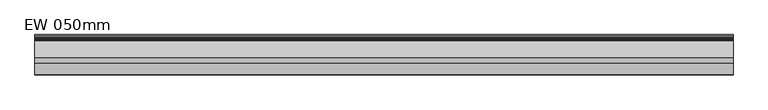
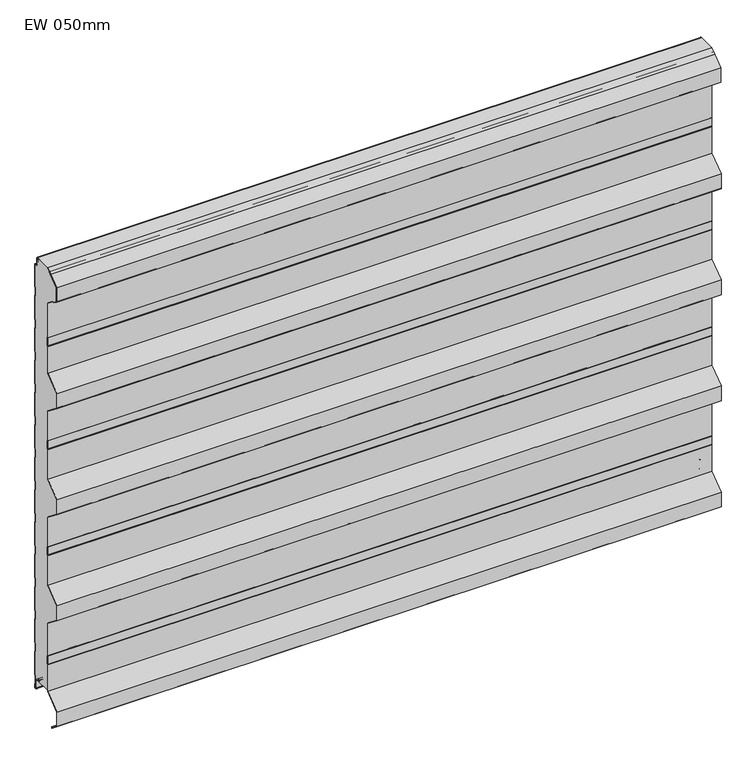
"""IFC4 building model written with IfcOpenShell, lengths in millimetres: plate geometry, KIP-MEX-KC-R19-CP-EW-SL : EW 050mm."""

from ifc_helpers import new_model, si_unit, point, frame, frame_2d, origin, place, context, project, spatial, polyline, circle_curve, trimmed, segment, composite_curve, outline, extrude, source, transform, mapped, element, save
from ifc_brep_helpers import plane_surface, cylinder_surface, revolved_surface, advanced_brep


def ew_050mm_1255d846(model_context):
    return source(origin(), model_context, "Body", "SolidModel", [
        advanced_brep(
        [(-740.0, -60.0327477, 989.051258), (-740.0, -55.6292245, 991.4166419), (-740.0, -56.1011177, 992.2982989), (-740.0, -60.5823669, 989.8911639), (-740.0, -49.7971296, 998.3652789), (-740.0, -11.2514375, 998.3666923), (-740.0, -13.6351997, 996.0840542), (-740.0, -14.1562355, 990.2938452), (-740.0, -13.178913, 990.2059002), (-740.0, -12.6629632, 995.9395891), (-740.0, -10.8760369, 997.3642752), (-740.0, -8.8936988, 995.9342793), (-740.0, -7.4885937, 979.8720443), (-740.0, -4.5000049, 977.1334803), (-740.0, -1.0, 977.1334803), (-740.0, -1.0, 924.1786391), (-740.0, -2.2002307, 922.7930062), (-740.0, -2.2002307, 903.4178399), (-740.0, -1.0, 902.0322069), (-740.0, -1.0, 847.9787915), (-740.0, -2.2002307, 846.5931586), (-740.0, -2.2002307, 827.2179923), (-740.0, -1.0, 825.8323593), (-740.0, -1.0, 771.7789439), (-740.0, -2.2002307, 770.393311), (-740.0, -2.2002307, 751.0181447), (-740.0, -1.0, 749.6325117), (-740.0, -1.0, 695.5790963), (-740.0, -2.2002307, 694.1934634), (-740.0, -2.2002307, 674.8182971), (-740.0, -1.0, 673.4326641), (-740.0, -1.0, 619.3792487), (-740.0, -2.2002307, 617.9936158), (-740.0, -2.2002307, 598.6184495), (-740.0, -1.0, 597.2328165), (-740.0, -1.0, 543.1794011), (-740.0, -2.2002307, 541.7937682), (-740.0, -2.2002307, 522.4186019), (-740.0, -1.0, 521.0329689), (-740.0, -1.0, 466.9795535), (-740.0, -2.2002307, 465.5939206), (-740.0, -2.2002307, 446.2187543), (-740.0, -1.0, 444.8331213), (-740.0, -1.0, 390.7797059), (-740.0, -2.2002307, 389.394073), (-740.0, -2.2002307, 370.0189067), (-740.0, -1.0, 368.6332737), (-740.0, -1.0, 314.5798583), (-740.0, -2.2002307, 313.1942254), (-740.0, -2.2002307, 293.8190591), (-740.0, -1.0, 292.4334261), (-740.0, -1.0, 238.3800107), (-740.0, -2.2002307, 236.9943778), (-740.0, -2.2002307, 217.6192115), (-740.0, -1.0, 216.2335785), (-740.0, -1.0, 162.1801631), (-740.0, -2.2002307, 160.7945302), (-740.0, -2.2002307, 141.4193639), (-740.0, -1.0, 140.0337309), (-740.0, -1.0, 85.9803155), (-740.0, -2.2002307, 84.5946826), (-740.0, -2.2002307, 65.2195163), (-740.0, -1.0, 63.8338833), (-740.0, -1.0, 9.7804679), (-740.0, -2.2002307, 8.394835), (-740.0, -2.2002307, -10.9803313), (-740.0, -0.9999916, -12.365974), (-740.0, -0.9999916, -20.8675386), (-740.0, -2.4999198, -20.8675386), (-740.0, -4.9998241, -18.3676343), (-740.0, -4.9998241, -0.3670493), (-740.0, -7.998082, 2.6333088), (-740.0, -11.5943952, 2.6333088), (-740.0, -13.0725686, 3.8746028), (-740.0, -13.6943971, 7.4169376), (-740.0, -14.6793372, 7.2440392), (-740.0, -14.0575086, 3.7017037), (-740.0, -11.5958694, 1.6333077), (-740.0, -49.0, 1.6333077), (-740.0, -49.0, 62.1559418), (-740.0, -47.9999989, 63.5702249), (-740.0, -47.9999989, 82.7777465), (-740.0, -49.0, 84.1920296), (-740.0, -49.0, 160.6910066), (-740.0, -84.000038, 188.1910365), (-740.0, -84.000038, 222.2190039), (-740.0, -49.0, 249.7190337), (-740.0, -49.0, 319.1871119), (-740.0, -47.9999989, 320.601395), (-740.0, -47.9999989, 339.8089167), (-740.0, -49.0, 341.2231997), (-740.0, -49.0, 410.6912779), (-740.0, -84.000038, 438.1913078), (-740.0, -84.000038, 472.2192752), (-740.0, -49.0, 499.719305), (-740.0, -49.0, 569.1090864), (-740.0, -47.9999989, 570.1732653), (-740.0, -47.9999989, 589.809188), (-740.0, -49.0, 591.2234711), (-740.0, -49.0, 660.6915492), (-740.0, -84.000038, 688.1915791), (-740.0, -84.000038, 722.2195465), (-740.0, -49.0, 749.7195763), (-740.0, -49.0, 812.1567557), (-740.0, -47.9999989, 813.5710388), (-740.0, -47.9999989, 832.7785605), (-740.0, -49.0, 834.1928435), (-740.0, -49.0, 914.6918249), (-740.0, -69.3814311, 930.7058064), (-740.0, -73.199617, 930.7058064), (-740.0, -83.0000369, 938.4061363), (-740.0, -83.0000369, 971.0055308), (740.0, -60.0327477, 989.051258), (740.0, -83.0000369, 971.0055308), (740.0, -83.0000369, 938.4061363), (740.0, -73.199617, 930.7058064), (740.0, -69.3814311, 930.7058064), (740.0, -49.0, 914.6918249), (740.0, -49.0, 834.1928435), (740.0, -47.9999989, 832.7785605), (740.0, -47.9999989, 813.5710388), (740.0, -49.0, 812.1567557), (740.0, -49.0, 749.7195763), (740.0, -84.000038, 722.2195465), (740.0, -84.000038, 688.1915791), (740.0, -49.0, 660.6915492), (740.0, -49.0, 591.2234711), (740.0, -47.9999989, 589.809188), (740.0, -47.9999989, 570.1732653), (740.0, -49.0, 569.1090864), (740.0, -49.0, 499.719305), (740.0, -84.000038, 472.2192752), (740.0, -84.000038, 438.1913078), (740.0, -49.0, 410.6912779), (740.0, -49.0, 341.2231997), (740.0, -47.9999989, 339.8089167), (740.0, -47.9999989, 320.601395), (740.0, -49.0, 319.1871119), (740.0, -49.0, 249.7190337), (740.0, -84.000038, 222.2190039), (740.0, -84.000038, 188.1910365), (740.0, -49.0, 160.6910066), (740.0, -49.0, 84.1920296), (740.0, -47.9999989, 82.7777465), (740.0, -47.9999989, 63.5702249), (740.0, -49.0, 62.1559418), (740.0, -49.0, 1.6333077), (740.0, -11.5958694, 1.6333077), (740.0, -14.0575086, 3.7017037), (740.0, -14.6793372, 7.2440392), (740.0, -13.6943971, 7.4169376), (740.0, -13.0725686, 3.8746028), (740.0, -11.5943952, 2.6333088), (740.0, -7.998082, 2.6333088), (740.0, -4.9998241, -0.3670493), (740.0, -4.9998241, -18.3676343), (740.0, -2.4999198, -20.8675386), (740.0, -0.9999916, -20.8675386), (740.0, -0.9999916, -12.365974), (740.0, -2.2002307, -10.9803313), (740.0, -2.2002307, 8.394835), (740.0, -1.0, 9.7804679), (740.0, -1.0, 63.8338833), (740.0, -2.2002307, 65.2195163), (740.0, -2.2002307, 84.5946826), (740.0, -1.0, 85.9803155), (740.0, -1.0, 140.0337309), (740.0, -2.2002307, 141.4193639), (740.0, -2.2002307, 160.7945302), (740.0, -1.0, 162.1801631), (740.0, -1.0, 216.2335785), (740.0, -2.2002307, 217.6192115), (740.0, -2.2002307, 236.9943778), (740.0, -1.0, 238.3800107), (740.0, -1.0, 292.4334261), (740.0, -2.2002307, 293.8190591), (740.0, -2.2002307, 313.1942254), (740.0, -1.0, 314.5798583), (740.0, -1.0, 368.6332737), (740.0, -2.2002307, 370.0189067), (740.0, -2.2002307, 389.394073), (740.0, -1.0, 390.7797059), (740.0, -1.0, 444.8331213), (740.0, -2.2002307, 446.2187543), (740.0, -2.2002307, 465.5939206), (740.0, -1.0, 466.9795535), (740.0, -1.0, 521.0329689), (740.0, -2.2002307, 522.4186019), (740.0, -2.2002307, 541.7937682), (740.0, -1.0, 543.1794011), (740.0, -1.0, 597.2328165), (740.0, -2.2002307, 598.6184495), (740.0, -2.2002307, 617.9936158), (740.0, -1.0, 619.3792487), (740.0, -1.0, 673.4326641), (740.0, -2.2002307, 674.8182971), (740.0, -2.2002307, 694.1934634), (740.0, -1.0, 695.5790963), (740.0, -1.0, 749.6325117), (740.0, -2.2002307, 751.0181447), (740.0, -2.2002307, 770.393311), (740.0, -1.0, 771.7789439), (740.0, -1.0, 825.8323593), (740.0, -2.2002307, 827.2179923), (740.0, -2.2002307, 846.5931586), (740.0, -1.0, 847.9787915), (740.0, -1.0, 902.0322069), (740.0, -2.2002307, 903.4178399), (740.0, -2.2002307, 922.7930062), (740.0, -1.0, 924.1786391), (740.0, -1.0, 977.1334803), (740.0, -4.5000049, 977.1334803), (740.0, -7.4885937, 979.8720443), (740.0, -8.8936988, 995.9342793), (740.0, -10.8760369, 997.3642752), (740.0, -12.6629632, 995.9395891), (740.0, -13.178913, 990.2059002), (740.0, -14.1562355, 990.2938452), (740.0, -13.6351997, 996.0840542), (740.0, -11.2514375, 998.3666923), (740.0, -49.7971296, 998.3652789), (740.0, -60.5823669, 989.8911639), (740.0, -56.1011177, 992.2982989), (740.0, -55.6292245, 991.4166419)],
        [
            (0, 1),
            (1, 2),
            (2, 3),
            (3, 4),
            (4, 5),
            (5, 6, circle_curve(frame((-740.0, -10.8441969, 995.5554081), z_axis=(1.0, 0.0, 0.0), x_axis=(0.0, -1.0, 0.0)), 2.8406273)),
            (6, 7),
            (7, 8),
            (8, 9),
            (9, 10, circle_curve(frame((-740.0, -10.8991179, 995.560247), z_axis=(-1.0, 0.0, 0.0), x_axis=(0.0, -1.0, 0.0)), 1.8041759)),
            (10, 11, circle_curve(frame((-740.0, -10.6928483, 995.5292107), z_axis=(-1.0, 0.0, 0.0), x_axis=(0.0, -1.0, 0.0)), 1.8441854)),
            (11, 12),
            (12, 13, circle_curve(frame((-740.0, -4.5000049, 980.1334825), z_axis=(1.0, 0.0, 0.0), x_axis=(0.0, -1.0, 0.0)), 3.0000022)),
            (13, 14),
            (14, 15),
            (15, 16),
            (16, 17),
            (17, 18),
            (18, 19),
            (19, 20),
            (20, 21),
            (21, 22),
            (22, 23),
            (23, 24),
            (24, 25),
            (25, 26),
            (26, 27),
            (27, 28),
            (28, 29),
            (29, 30),
            (30, 31),
            (31, 32),
            (32, 33),
            (33, 34),
            (34, 35),
            (35, 36),
            (36, 37),
            (37, 38),
            (38, 39),
            (39, 40),
            (40, 41),
            (41, 42),
            (42, 43),
            (43, 44),
            (44, 45),
            (45, 46),
            (46, 47),
            (47, 48),
            (48, 49),
            (49, 50),
            (50, 51),
            (51, 52),
            (52, 53),
            (53, 54),
            (54, 55),
            (55, 56),
            (56, 57),
            (57, 58),
            (58, 59),
            (59, 60),
            (60, 61),
            (61, 62),
            (62, 63),
            (63, 64),
            (64, 65),
            (65, 66),
            (66, 67),
            (67, 68),
            (68, 69, circle_curve(frame((-740.0, -2.4999198, -18.3676343), z_axis=(-1.0, 0.0, 0.0), x_axis=(0.0, -1.0, 0.0)), 2.4999043)),
            (69, 70),
            (70, 71, circle_curve(frame((-740.0, -8.0001829, -0.3670493), z_axis=(1.0, 0.0, 0.0), x_axis=(0.0, -1.0, 0.0)), 3.0003589)),
            (71, 72),
            (72, 73, circle_curve(frame((-740.0, -11.5943952, 4.1340843), z_axis=(-1.0, 0.0, 0.0), x_axis=(0.0, -1.0, 0.0)), 1.5007755)),
            (73, 74),
            (74, 75),
            (75, 76),
            (76, 77, circle_curve(frame((-740.0, -11.5943948, 4.1340836), z_axis=(1.0, 0.0, 0.0), x_axis=(0.0, -1.0, 0.0)), 2.5007762)),
            (77, 78),
            (78, 79),
            (79, 80),
            (80, 81),
            (81, 82),
            (82, 83),
            (83, 84),
            (84, 85),
            (85, 86),
            (86, 87),
            (87, 88),
            (88, 89),
            (89, 90),
            (90, 91),
            (91, 92),
            (92, 93),
            (93, 94),
            (94, 95),
            (95, 96),
            (96, 97),
            (97, 98),
            (98, 99),
            (99, 100),
            (100, 101),
            (101, 102),
            (102, 103),
            (103, 104),
            (104, 105),
            (105, 106),
            (106, 107),
            (107, 108),
            (108, 109),
            (109, 110),
            (110, 111),
            (111, 0),
            (112, 113),
            (113, 114),
            (114, 115),
            (115, 116),
            (116, 117),
            (117, 118),
            (118, 119),
            (119, 120),
            (120, 121),
            (121, 122),
            (122, 123),
            (123, 124),
            (124, 125),
            (125, 126),
            (126, 127),
            (127, 128),
            (128, 129),
            (129, 130),
            (130, 131),
            (131, 132),
            (132, 133),
            (133, 134),
            (134, 135),
            (135, 136),
            (136, 137),
            (137, 138),
            (138, 139),
            (139, 140),
            (140, 141),
            (141, 142),
            (142, 143),
            (143, 144),
            (144, 145),
            (145, 146),
            (146, 147),
            (147, 148, circle_curve(frame((740.0, -11.5943948, 4.1340836), z_axis=(-1.0, 0.0, 0.0), x_axis=(0.0, -1.0, 0.0)), 2.5007762)),
            (148, 149),
            (149, 150),
            (150, 151),
            (151, 152, circle_curve(frame((740.0, -11.5943952, 4.1340843), z_axis=(1.0, 0.0, 0.0), x_axis=(0.0, -1.0, 0.0)), 1.5007755)),
            (152, 153),
            (153, 154, circle_curve(frame((740.0, -8.0001829, -0.3670493), z_axis=(-1.0, 0.0, 0.0), x_axis=(0.0, -1.0, 0.0)), 3.0003589)),
            (154, 155),
            (155, 156, circle_curve(frame((740.0, -2.4999198, -18.3676343), z_axis=(1.0, 0.0, 0.0), x_axis=(0.0, -1.0, 0.0)), 2.4999043)),
            (156, 157),
            (157, 158),
            (158, 159),
            (159, 160),
            (160, 161),
            (161, 162),
            (162, 163),
            (163, 164),
            (164, 165),
            (165, 166),
            (166, 167),
            (167, 168),
            (168, 169),
            (169, 170),
            (170, 171),
            (171, 172),
            (172, 173),
            (173, 174),
            (174, 175),
            (175, 176),
            (176, 177),
            (177, 178),
            (178, 179),
            (179, 180),
            (180, 181),
            (181, 182),
            (182, 183),
            (183, 184),
            (184, 185),
            (185, 186),
            (186, 187),
            (187, 188),
            (188, 189),
            (189, 190),
            (190, 191),
            (191, 192),
            (192, 193),
            (193, 194),
            (194, 195),
            (195, 196),
            (196, 197),
            (197, 198),
            (198, 199),
            (199, 200),
            (200, 201),
            (201, 202),
            (202, 203),
            (203, 204),
            (204, 205),
            (205, 206),
            (206, 207),
            (207, 208),
            (208, 209),
            (209, 210),
            (210, 211),
            (211, 212, circle_curve(frame((740.0, -4.5000049, 980.1334825), z_axis=(-1.0, 0.0, 0.0), x_axis=(0.0, -1.0, 0.0)), 3.0000022)),
            (212, 213),
            (213, 214, circle_curve(frame((740.0, -10.6928483, 995.5292107), z_axis=(1.0, 0.0, 0.0), x_axis=(0.0, -1.0, 0.0)), 1.8441854)),
            (214, 215, circle_curve(frame((740.0, -10.8991179, 995.560247), z_axis=(1.0, 0.0, 0.0), x_axis=(0.0, -1.0, 0.0)), 1.8041759)),
            (215, 216),
            (216, 217),
            (217, 218),
            (218, 219, circle_curve(frame((740.0, -10.8441969, 995.5554081), z_axis=(-1.0, 0.0, 0.0), x_axis=(0.0, -1.0, 0.0)), 2.8406273)),
            (219, 220),
            (220, 221),
            (221, 222),
            (222, 223),
            (223, 112),
            (0, 112),
            (223, 1),
            (111, 113),
            (110, 114),
            (109, 115),
            (108, 116),
            (107, 117),
            (106, 118),
            (105, 119),
            (104, 120),
            (103, 121),
            (102, 122),
            (101, 123),
            (100, 124),
            (99, 125),
            (98, 126),
            (97, 127),
            (96, 128),
            (95, 129),
            (94, 130),
            (93, 131),
            (92, 132),
            (91, 133),
            (90, 134),
            (89, 135),
            (88, 136),
            (87, 137),
            (86, 138),
            (85, 139),
            (84, 140),
            (83, 141),
            (82, 142),
            (81, 143),
            (80, 144),
            (79, 145),
            (78, 146),
            (2, 222),
            (221, 3),
            (220, 4),
            (219, 5),
            (77, 147),
            (73, 151),
            (150, 74),
            (72, 152),
            (71, 153),
            (70, 154),
            (69, 155),
            (68, 156),
            (67, 157),
            (13, 211),
            (210, 14),
            (12, 212),
            (11, 213),
            (10, 214),
            (9, 215),
            (8, 216),
            (7, 217),
            (6, 218),
            (76, 148),
            (75, 149),
            (66, 158),
            (65, 159),
            (64, 160),
            (63, 161),
            (62, 162),
            (61, 163),
            (60, 164),
            (59, 165),
            (58, 166),
            (57, 167),
            (56, 168),
            (55, 169),
            (54, 170),
            (53, 171),
            (52, 172),
            (51, 173),
            (50, 174),
            (49, 175),
            (48, 176),
            (47, 177),
            (46, 178),
            (45, 179),
            (44, 180),
            (43, 181),
            (42, 182),
            (41, 183),
            (40, 184),
            (39, 185),
            (38, 186),
            (37, 187),
            (36, 188),
            (35, 189),
            (34, 190),
            (33, 191),
            (32, 192),
            (31, 193),
            (30, 194),
            (29, 195),
            (28, 196),
            (27, 197),
            (26, 198),
            (25, 199),
            (24, 200),
            (23, 201),
            (22, 202),
            (21, 203),
            (20, 204),
            (19, 205),
            (18, 206),
            (17, 207),
            (16, 208),
            (15, 209),
        ],
        [
            plane_surface(frame((-740.0, -49.0, 500.0), z_axis=(-1.0, 0.0, 0.0), x_axis=(0.0, -1.0, 0.0))),
            plane_surface(frame((740.0, -49.0, 500.0), z_axis=(1.0, 0.0, 0.0), x_axis=(0.0, -1.0, 0.0))),
            plane_surface(frame((-740.0, -55.6292245, 991.4166419), z_axis=(0.0, -0.4732087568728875, 0.8809503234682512), x_axis=(1.0, 0.0, 0.0))),
            plane_surface(frame((-740.0, -60.0327477, 989.051258), z_axis=(0.0, -0.6178215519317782, 0.7863183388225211), x_axis=(1.0, 0.0, 0.0))),
            plane_surface(frame((-740.0, -83.0000369, 971.0055308), z_axis=(0.0, -1.0, 0.0), x_axis=(1.0, 0.0, 0.0))),
            plane_surface(frame((-740.0, -83.0000369, 938.4061363), z_axis=(0.0, -0.6178215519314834, -0.7863183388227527), x_axis=(1.0, 0.0, 0.0))),
            plane_surface(frame((-740.0, -73.199617, 930.7058064), z_axis=(0.0, 0.0, -1.0), x_axis=(1.0, 0.0, 0.0))),
            plane_surface(frame((-740.0, -69.3814311, 930.7058064), z_axis=(0.0, -0.6178215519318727, -0.786318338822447), x_axis=(1.0, 0.0, 0.0))),
            plane_surface(frame((-740.0, -49.0, 914.6918249), z_axis=(0.0, -1.0, 0.0), x_axis=(1.0, 0.0, 0.0))),
            plane_surface(frame((-740.0, -49.0, 834.1928435), z_axis=(0.0, -0.8165096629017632, -0.577331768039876), x_axis=(1.0, 0.0, 0.0))),
            plane_surface(frame((-740.0, -47.9999989, 832.7785605), z_axis=(0.0, -1.0, 0.0), x_axis=(1.0, 0.0, 0.0))),
            plane_surface(frame((-740.0, -47.9999989, 813.5710388), z_axis=(0.0, -0.816509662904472, 0.5773317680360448), x_axis=(1.0, 0.0, 0.0))),
            plane_surface(frame((-740.0, -49.0, 812.1567557), z_axis=(0.0, -1.0, 0.0), x_axis=(1.0, 0.0, 0.0))),
            plane_surface(frame((-740.0, -49.0, 749.7195763), z_axis=(0.0, -0.6178215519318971, 0.7863183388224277), x_axis=(1.0, 0.0, 0.0))),
            plane_surface(frame((-740.0, -84.000038, 722.2195465), z_axis=(0.0, -1.0, 0.0), x_axis=(1.0, 0.0, 0.0))),
            plane_surface(frame((-740.0, -84.000038, 688.1915791), z_axis=(0.0, -0.6178215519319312, -0.7863183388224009), x_axis=(1.0, 0.0, 0.0))),
            plane_surface(frame((-740.0, -49.0, 660.6915492), z_axis=(0.0, -1.0, 0.0), x_axis=(1.0, 0.0, 0.0))),
            plane_surface(frame((-740.0, -49.0, 591.2234711), z_axis=(0.0, -0.8165096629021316, -0.577331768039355), x_axis=(1.0, 0.0, 0.0))),
            plane_surface(frame((-740.0, -47.9999989, 589.809188), z_axis=(0.0, -1.0, 0.0), x_axis=(1.0, 0.0, 0.0))),
            plane_surface(frame((-740.0, -47.9999989, 570.1732653), z_axis=(0.0, -0.7287394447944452, 0.6847910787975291), x_axis=(1.0, 0.0, 0.0))),
            plane_surface(frame((-740.0, -49.0, 569.1090864), z_axis=(0.0, -1.0, 0.0), x_axis=(1.0, 0.0, 0.0))),
            plane_surface(frame((-740.0, -49.0, 499.719305), z_axis=(0.0, -0.6178215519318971, 0.7863183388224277), x_axis=(1.0, 0.0, 0.0))),
            plane_surface(frame((-740.0, -84.000038, 472.2192752), z_axis=(0.0, -1.0, 0.0), x_axis=(1.0, 0.0, 0.0))),
            plane_surface(frame((-740.0, -84.000038, 438.1913078), z_axis=(0.0, -0.6178215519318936, -0.7863183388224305), x_axis=(1.0, 0.0, 0.0))),
            plane_surface(frame((-740.0, -49.0, 410.6912779), z_axis=(0.0, -1.0, 0.0), x_axis=(1.0, 0.0, 0.0))),
            plane_surface(frame((-740.0, -49.0, 341.2231997), z_axis=(0.0, -0.8165096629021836, -0.5773317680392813), x_axis=(1.0, 0.0, 0.0))),
            plane_surface(frame((-740.0, -47.9999989, 339.8089167), z_axis=(0.0, -1.0, 0.0), x_axis=(1.0, 0.0, 0.0))),
            plane_surface(frame((-740.0, -47.9999989, 320.601395), z_axis=(0.0, -0.8165096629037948, 0.5773317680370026), x_axis=(1.0, 0.0, 0.0))),
            plane_surface(frame((-740.0, -49.0, 319.1871119), z_axis=(0.0, -1.0, 0.0), x_axis=(1.0, 0.0, 0.0))),
            plane_surface(frame((-740.0, -49.0, 249.7190337), z_axis=(0.0, -0.6178215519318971, 0.7863183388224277), x_axis=(1.0, 0.0, 0.0))),
            plane_surface(frame((-740.0, -84.000038, 222.2190039), z_axis=(0.0, -1.0, 0.0), x_axis=(1.0, 0.0, 0.0))),
            plane_surface(frame((-740.0, -84.000038, 188.1910365), z_axis=(0.0, -0.6178215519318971, -0.7863183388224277), x_axis=(1.0, 0.0, 0.0))),
            plane_surface(frame((-740.0, -49.0, 160.6910066), z_axis=(0.0, -1.0, 0.0), x_axis=(1.0, 0.0, 0.0))),
            plane_surface(frame((-740.0, -49.0, 84.1920296), z_axis=(0.0, -0.8165096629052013, -0.5773317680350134), x_axis=(1.0, 0.0, 0.0))),
            plane_surface(frame((-740.0, -47.9999989, 82.7777465), z_axis=(0.0, -1.0, 0.0), x_axis=(1.0, 0.0, 0.0))),
            plane_surface(frame((-740.0, -47.9999989, 63.5702249), z_axis=(0.0, -0.8165096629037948, 0.5773317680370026), x_axis=(1.0, 0.0, 0.0))),
            plane_surface(frame((-740.0, -49.0, 62.1559418), z_axis=(0.0, -1.0, 0.0), x_axis=(1.0, 0.0, 0.0))),
            plane_surface(frame((-740.0, -60.5823669, 989.8911639), z_axis=(0.0, 0.47320875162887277, -0.8809503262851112), x_axis=(1.0, 0.0, 0.0))),
            plane_surface(frame((-740.0, -56.1011177, 992.2982989), z_axis=(0.0, -0.8816559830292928, -0.47189270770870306), x_axis=(1.0, 0.0, 0.0))),
            plane_surface(frame((-740.0, -49.7971296, 998.3652789), z_axis=(0.0, -0.617821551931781, 0.786318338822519), x_axis=(1.0, 0.0, 0.0))),
            plane_surface(frame((-740.0, -44.8065083, 998.3652789), z_axis=(0.0, 0.0, 1.0), x_axis=(1.0, 0.0, 0.0))),
            plane_surface(frame((-740.0, -49.0, 1.6333077), z_axis=(0.0, 0.0, -1.0), x_axis=(1.0, 0.0, 0.0))),
            plane_surface(frame((-740.0, -13.6943971, 7.4169376), z_axis=(0.0, -0.9849396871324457, -0.17289827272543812), x_axis=(1.0, 0.0, 0.0))),
            cylinder_surface(frame((-740.0, -11.5943952, 4.1340843), z_axis=(-1.0, 0.0, 0.0), x_axis=(0.0, -1.0, 0.0)), 1.5007755),
            plane_surface(frame((-740.0, -11.5943952, 2.6333088), z_axis=(0.0, 0.0, -1.0), x_axis=(1.0, 0.0, 0.0))),
            revolved_surface(polyline([(740.0, -11.0005418, -0.3670493), (-740.0, -11.0005418, -0.3670493)]), (-740.0, -8.0001829, -0.3670493), (1.0, 0.0, 0.0)),
            plane_surface(frame((-740.0, -4.9998241, -0.3670493), z_axis=(0.0, -1.0, 0.0), x_axis=(1.0, 0.0, 0.0))),
            cylinder_surface(frame((-740.0, -2.4999198, -18.3676343), z_axis=(-1.0, 0.0, 0.0), x_axis=(0.0, -1.0, 0.0)), 2.4999043),
            plane_surface(frame((-740.0, -2.4999198, -20.8675386), z_axis=(0.0, 0.0, -1.0), x_axis=(1.0, 0.0, 0.0))),
            plane_surface(frame((-740.0, -1.0, 977.1334803), z_axis=(0.0, 0.0, 1.0), x_axis=(1.0, 0.0, 0.0))),
            revolved_surface(polyline([(740.0, -7.5000071, 980.1334825), (-740.0, -7.5000071, 980.1334825)]), (-740.0, -4.5000049, 980.1334825), (1.0, 0.0, 0.0)),
            plane_surface(frame((-740.0, -7.4885937, 979.8720443), z_axis=(0.0, 0.9961955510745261, 0.08714599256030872), x_axis=(1.0, 0.0, 0.0))),
            cylinder_surface(frame((-740.0, -10.6928483, 995.5292107), z_axis=(-1.0, 0.0, 0.0), x_axis=(0.0, -1.0, 0.0)), 1.8441854),
            cylinder_surface(frame((-740.0, -10.8991179, 995.560247), z_axis=(-1.0, 0.0, 0.0), x_axis=(0.0, -1.0, 0.0)), 1.8041759),
            plane_surface(frame((-740.0, -12.6629632, 995.9395891), z_axis=(0.0, -0.9959757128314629, 0.08962354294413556), x_axis=(1.0, 0.0, 0.0))),
            plane_surface(frame((-740.0, -13.178913, 990.2059002), z_axis=(0.0, 0.0896235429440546, 0.9959757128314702), x_axis=(1.0, 0.0, 0.0))),
            plane_surface(frame((-740.0, -14.1562355, 990.2938452), z_axis=(0.0, 0.9959757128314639, -0.08962354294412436), x_axis=(1.0, 0.0, 0.0))),
            revolved_surface(polyline([(740.0, -13.6848242, 995.5554081), (-740.0, -13.6848242, 995.5554081)]), (-740.0, -10.8441969, 995.5554081), (1.0, 0.0, 0.0)),
            revolved_surface(polyline([(740.0, -14.095171, 4.1340836), (-740.0, -14.095171, 4.1340836)]), (-740.0, -11.5943948, 4.1340836), (1.0, 0.0, 0.0)),
            plane_surface(frame((-740.0, -14.0575086, 3.7017037), z_axis=(0.0, 0.9849396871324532, 0.17289827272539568), x_axis=(1.0, 0.0, 0.0))),
            plane_surface(frame((-740.0, -14.6793372, 7.2440392), z_axis=(0.0, 0.17289827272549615, -0.9849396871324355), x_axis=(1.0, 0.0, 0.0))),
            plane_surface(frame((-740.0, -0.9999916, -20.8675386), z_axis=(0.0, 1.0, 0.0), x_axis=(1.0, 0.0, 0.0))),
            plane_surface(frame((-740.0, -0.9999916, -12.365974), z_axis=(0.0, 0.7558648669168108, 0.6547276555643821), x_axis=(1.0, 0.0, 0.0))),
            plane_surface(frame((-740.0, -2.2002307, -10.9803313), z_axis=(0.0, 1.0, 0.0), x_axis=(1.0, 0.0, 0.0))),
            plane_surface(frame((-740.0, -2.2002307, 8.394835), z_axis=(0.0, 0.7558648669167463, -0.6547276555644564), x_axis=(1.0, 0.0, 0.0))),
            plane_surface(frame((-740.0, -1.0, 9.7804679), z_axis=(0.0, 1.0, 0.0), x_axis=(1.0, 0.0, 0.0))),
            plane_surface(frame((-740.0, -1.0, 63.8338833), z_axis=(0.0, 0.7558648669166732, 0.6547276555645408), x_axis=(1.0, 0.0, 0.0))),
            plane_surface(frame((-740.0, -2.2002307, 65.2195163), z_axis=(0.0, 1.0, 0.0), x_axis=(1.0, 0.0, 0.0))),
            plane_surface(frame((-740.0, -2.2002307, 84.5946826), z_axis=(0.0, 0.7558648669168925, -0.6547276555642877), x_axis=(1.0, 0.0, 0.0))),
            plane_surface(frame((-740.0, -1.0, 85.9803155), z_axis=(0.0, 1.0, 0.0), x_axis=(1.0, 0.0, 0.0))),
            plane_surface(frame((-740.0, -1.0, 140.0337309), z_axis=(0.0, 0.7558648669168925, 0.6547276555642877), x_axis=(1.0, 0.0, 0.0))),
            plane_surface(frame((-740.0, -2.2002307, 141.4193639), z_axis=(0.0, 1.0, 0.0), x_axis=(1.0, 0.0, 0.0))),
            plane_surface(frame((-740.0, -2.2002307, 160.7945302), z_axis=(0.0, 0.7558648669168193, -0.6547276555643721), x_axis=(1.0, 0.0, 0.0))),
            plane_surface(frame((-740.0, -1.0, 162.1801631), z_axis=(0.0, 1.0, 0.0), x_axis=(1.0, 0.0, 0.0))),
            plane_surface(frame((-740.0, -1.0, 216.2335785), z_axis=(0.0, 0.7558648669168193, 0.6547276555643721), x_axis=(1.0, 0.0, 0.0))),
            plane_surface(frame((-740.0, -2.2002307, 217.6192115), z_axis=(0.0, 1.0, 0.0), x_axis=(1.0, 0.0, 0.0))),
            plane_surface(frame((-740.0, -2.2002307, 236.9943778), z_axis=(0.0, 0.7558648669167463, -0.6547276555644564), x_axis=(1.0, 0.0, 0.0))),
            plane_surface(frame((-740.0, -1.0, 238.3800107), z_axis=(0.0, 1.0, 0.0), x_axis=(1.0, 0.0, 0.0))),
            plane_surface(frame((-740.0, -1.0, 292.4334261), z_axis=(0.0, 0.7558648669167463, 0.6547276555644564), x_axis=(1.0, 0.0, 0.0))),
            plane_surface(frame((-740.0, -2.2002307, 293.8190591), z_axis=(0.0, 1.0, 0.0), x_axis=(1.0, 0.0, 0.0))),
            plane_surface(frame((-740.0, -2.2002307, 313.1942254), z_axis=(0.0, 0.7558648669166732, -0.6547276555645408), x_axis=(1.0, 0.0, 0.0))),
            plane_surface(frame((-740.0, -1.0, 314.5798583), z_axis=(0.0, 1.0, 0.0), x_axis=(1.0, 0.0, 0.0))),
            plane_surface(frame((-740.0, -1.0, 368.6332737), z_axis=(0.0, 0.7558648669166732, 0.6547276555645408), x_axis=(1.0, 0.0, 0.0))),
            plane_surface(frame((-740.0, -2.2002307, 370.0189067), z_axis=(0.0, 1.0, 0.0), x_axis=(1.0, 0.0, 0.0))),
            plane_surface(frame((-740.0, -2.2002307, 389.394073), z_axis=(0.0, 0.755864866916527, -0.6547276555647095), x_axis=(1.0, 0.0, 0.0))),
            plane_surface(frame((-740.0, -1.0, 390.7797059), z_axis=(0.0, 1.0, 0.0), x_axis=(1.0, 0.0, 0.0))),
            plane_surface(frame((-740.0, -1.0, 444.8331213), z_axis=(0.0, 0.755864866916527, 0.6547276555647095), x_axis=(1.0, 0.0, 0.0))),
            plane_surface(frame((-740.0, -2.2002307, 446.2187543), z_axis=(0.0, 1.0, 0.0), x_axis=(1.0, 0.0, 0.0))),
            plane_surface(frame((-740.0, -2.2002307, 465.5939206), z_axis=(0.0, 0.755864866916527, -0.6547276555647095), x_axis=(1.0, 0.0, 0.0))),
            plane_surface(frame((-740.0, -1.0, 466.9795535), z_axis=(0.0, 1.0, 0.0), x_axis=(1.0, 0.0, 0.0))),
            plane_surface(frame((-740.0, -1.0, 521.0329689), z_axis=(0.0, 0.755864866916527, 0.6547276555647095), x_axis=(1.0, 0.0, 0.0))),
            plane_surface(frame((-740.0, -2.2002307, 522.4186019), z_axis=(0.0, 1.0, 0.0), x_axis=(1.0, 0.0, 0.0))),
            plane_surface(frame((-740.0, -2.2002307, 541.7937682), z_axis=(0.0, 0.7558648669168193, -0.6547276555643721), x_axis=(1.0, 0.0, 0.0))),
            plane_surface(frame((-740.0, -1.0, 543.1794011), z_axis=(0.0, 1.0, 0.0), x_axis=(1.0, 0.0, 0.0))),
            plane_surface(frame((-740.0, -1.0, 597.2328165), z_axis=(0.0, 0.7558648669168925, 0.6547276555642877), x_axis=(1.0, 0.0, 0.0))),
            plane_surface(frame((-740.0, -2.2002307, 598.6184495), z_axis=(0.0, 1.0, 0.0), x_axis=(1.0, 0.0, 0.0))),
            plane_surface(frame((-740.0, -2.2002307, 617.9936158), z_axis=(0.0, 0.7558648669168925, -0.6547276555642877), x_axis=(1.0, 0.0, 0.0))),
            plane_surface(frame((-740.0, -1.0, 619.3792487), z_axis=(0.0, 1.0, 0.0), x_axis=(1.0, 0.0, 0.0))),
            plane_surface(frame((-740.0, -1.0, 673.4326641), z_axis=(0.0, 0.7558648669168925, 0.6547276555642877), x_axis=(1.0, 0.0, 0.0))),
            plane_surface(frame((-740.0, -2.2002307, 674.8182971), z_axis=(0.0, 1.0, 0.0), x_axis=(1.0, 0.0, 0.0))),
            plane_surface(frame((-740.0, -2.2002307, 694.1934634), z_axis=(0.0, 0.7558648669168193, -0.6547276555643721), x_axis=(1.0, 0.0, 0.0))),
            plane_surface(frame((-740.0, -1.0, 695.5790963), z_axis=(0.0, 1.0, 0.0), x_axis=(1.0, 0.0, 0.0))),
            plane_surface(frame((-740.0, -1.0, 749.6325117), z_axis=(0.0, 0.7558648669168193, 0.6547276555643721), x_axis=(1.0, 0.0, 0.0))),
            plane_surface(frame((-740.0, -2.2002307, 751.0181447), z_axis=(0.0, 1.0, 0.0), x_axis=(1.0, 0.0, 0.0))),
            plane_surface(frame((-740.0, -2.2002307, 770.393311), z_axis=(0.0, 0.7558648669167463, -0.6547276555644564), x_axis=(1.0, 0.0, 0.0))),
            plane_surface(frame((-740.0, -1.0, 771.7789439), z_axis=(0.0, 1.0, 0.0), x_axis=(1.0, 0.0, 0.0))),
            plane_surface(frame((-740.0, -1.0, 825.8323593), z_axis=(0.0, 0.7558648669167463, 0.6547276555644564), x_axis=(1.0, 0.0, 0.0))),
            plane_surface(frame((-740.0, -2.2002307, 827.2179923), z_axis=(0.0, 1.0, 0.0), x_axis=(1.0, 0.0, 0.0))),
            plane_surface(frame((-740.0, -2.2002307, 846.5931586), z_axis=(0.0, 0.7558648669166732, -0.6547276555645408), x_axis=(1.0, 0.0, 0.0))),
            plane_surface(frame((-740.0, -1.0, 847.9787915), z_axis=(0.0, 1.0, 0.0), x_axis=(1.0, 0.0, 0.0))),
            plane_surface(frame((-740.0, -1.0, 902.0322069), z_axis=(0.0, 0.7558648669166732, 0.6547276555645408), x_axis=(1.0, 0.0, 0.0))),
            plane_surface(frame((-740.0, -2.2002307, 903.4178399), z_axis=(0.0, 1.0, 0.0), x_axis=(1.0, 0.0, 0.0))),
            plane_surface(frame((-740.0, -2.2002307, 922.7930062), z_axis=(0.0, 0.7558648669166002, -0.6547276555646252), x_axis=(1.0, 0.0, 0.0))),
            plane_surface(frame((-740.0, -1.0, 924.1786391), z_axis=(0.0, 1.0, 0.0), x_axis=(1.0, 0.0, 0.0))),
        ],
        [
            (0, [[1, 2, 3, 4, 5, 6, 7, 8, 9, 10, 11, 12, 13, 14, 15, 16, 17, 18, 19, 20, 21, 22, 23, 24, 25, 26, 27, 28, 29, 30, 31, 32, 33, 34, 35, 36, 37, 38, 39, 40, 41, 42, 43, 44, 45, 46, 47, 48, 49, 50, 51, 52, 53, 54, 55, 56, 57, 58, 59, 60, 61, 62, 63, 64, 65, 66, 67, 68, 69, 70, 71, 72, 73, 74, 75, 76, 77, 78, 79, 80, 81, 82, 83, 84, 85, 86, 87, 88, 89, 90, 91, 92, 93, 94, 95, 96, 97, 98, 99, 100, 101, 102, 103, 104, 105, 106, 107, 108, 109, 110, 111, 112]]),
            (1, [[113, 114, 115, 116, 117, 118, 119, 120, 121, 122, 123, 124, 125, 126, 127, 128, 129, 130, 131, 132, 133, 134, 135, 136, 137, 138, 139, 140, 141, 142, 143, 144, 145, 146, 147, 148, 149, 150, 151, 152, 153, 154, 155, 156, 157, 158, 159, 160, 161, 162, 163, 164, 165, 166, 167, 168, 169, 170, 171, 172, 173, 174, 175, 176, 177, 178, 179, 180, 181, 182, 183, 184, 185, 186, 187, 188, 189, 190, 191, 192, 193, 194, 195, 196, 197, 198, 199, 200, 201, 202, 203, 204, 205, 206, 207, 208, 209, 210, 211, 212, 213, 214, 215, 216, 217, 218, 219, 220, 221, 222, 223, 224]]),
            (2, [[225, -224, 226, -1]]),
            (3, [[227, -113, -225, -112]]),
            (4, [[228, -114, -227, -111]]),
            (5, [[229, -115, -228, -110]]),
            (6, [[230, -116, -229, -109]]),
            (7, [[231, -117, -230, -108]]),
            (8, [[232, -118, -231, -107]]),
            (9, [[233, -119, -232, -106]]),
            (10, [[234, -120, -233, -105]]),
            (11, [[235, -121, -234, -104]]),
            (12, [[236, -122, -235, -103]]),
            (13, [[237, -123, -236, -102]]),
            (14, [[238, -124, -237, -101]]),
            (15, [[239, -125, -238, -100]]),
            (16, [[240, -126, -239, -99]]),
            (17, [[241, -127, -240, -98]]),
            (18, [[242, -128, -241, -97]]),
            (19, [[243, -129, -242, -96]]),
            (20, [[244, -130, -243, -95]]),
            (21, [[245, -131, -244, -94]]),
            (22, [[246, -132, -245, -93]]),
            (23, [[247, -133, -246, -92]]),
            (24, [[248, -134, -247, -91]]),
            (25, [[249, -135, -248, -90]]),
            (26, [[250, -136, -249, -89]]),
            (27, [[251, -137, -250, -88]]),
            (28, [[252, -138, -251, -87]]),
            (29, [[253, -139, -252, -86]]),
            (30, [[254, -140, -253, -85]]),
            (31, [[255, -141, -254, -84]]),
            (32, [[256, -142, -255, -83]]),
            (33, [[257, -143, -256, -82]]),
            (34, [[258, -144, -257, -81]]),
            (35, [[259, -145, -258, -80]]),
            (36, [[260, -146, -259, -79]]),
            (37, [[261, -222, 262, -3]]),
            (38, [[-226, -223, -261, -2]]),
            (39, [[-262, -221, 263, -4]]),
            (40, [[-263, -220, 264, -5]]),
            (41, [[265, -147, -260, -78]]),
            (42, [[266, -151, 267, -74]]),
            (43, [[268, -152, -266, -73]]),
            (44, [[269, -153, -268, -72]]),
            (45, [[270, -154, -269, -71]]),
            (46, [[271, -155, -270, -70]]),
            (47, [[272, -156, -271, -69]]),
            (48, [[273, -157, -272, -68]]),
            (49, [[274, -211, 275, -14]]),
            (50, [[276, -212, -274, -13]]),
            (51, [[277, -213, -276, -12]]),
            (52, [[278, -214, -277, -11]]),
            (53, [[279, -215, -278, -10]]),
            (54, [[280, -216, -279, -9]]),
            (55, [[281, -217, -280, -8]]),
            (56, [[282, -218, -281, -7]]),
            (57, [[-264, -219, -282, -6]]),
            (58, [[283, -148, -265, -77]]),
            (59, [[284, -149, -283, -76]]),
            (60, [[-267, -150, -284, -75]]),
            (61, [[285, -158, -273, -67]]),
            (62, [[286, -159, -285, -66]]),
            (63, [[287, -160, -286, -65]]),
            (64, [[288, -161, -287, -64]]),
            (65, [[289, -162, -288, -63]]),
            (66, [[290, -163, -289, -62]]),
            (67, [[291, -164, -290, -61]]),
            (68, [[292, -165, -291, -60]]),
            (69, [[293, -166, -292, -59]]),
            (70, [[294, -167, -293, -58]]),
            (71, [[295, -168, -294, -57]]),
            (72, [[296, -169, -295, -56]]),
            (73, [[297, -170, -296, -55]]),
            (74, [[298, -171, -297, -54]]),
            (75, [[299, -172, -298, -53]]),
            (76, [[300, -173, -299, -52]]),
            (77, [[301, -174, -300, -51]]),
            (78, [[302, -175, -301, -50]]),
            (79, [[303, -176, -302, -49]]),
            (80, [[304, -177, -303, -48]]),
            (81, [[305, -178, -304, -47]]),
            (82, [[306, -179, -305, -46]]),
            (83, [[307, -180, -306, -45]]),
            (84, [[308, -181, -307, -44]]),
            (85, [[309, -182, -308, -43]]),
            (86, [[310, -183, -309, -42]]),
            (87, [[311, -184, -310, -41]]),
            (88, [[312, -185, -311, -40]]),
            (89, [[313, -186, -312, -39]]),
            (90, [[314, -187, -313, -38]]),
            (91, [[315, -188, -314, -37]]),
            (92, [[316, -189, -315, -36]]),
            (93, [[317, -190, -316, -35]]),
            (94, [[318, -191, -317, -34]]),
            (95, [[319, -192, -318, -33]]),
            (96, [[320, -193, -319, -32]]),
            (97, [[321, -194, -320, -31]]),
            (98, [[322, -195, -321, -30]]),
            (99, [[323, -196, -322, -29]]),
            (100, [[324, -197, -323, -28]]),
            (101, [[325, -198, -324, -27]]),
            (102, [[326, -199, -325, -26]]),
            (103, [[327, -200, -326, -25]]),
            (104, [[328, -201, -327, -24]]),
            (105, [[329, -202, -328, -23]]),
            (106, [[330, -203, -329, -22]]),
            (107, [[331, -204, -330, -21]]),
            (108, [[332, -205, -331, -20]]),
            (109, [[333, -206, -332, -19]]),
            (110, [[334, -207, -333, -18]]),
            (111, [[335, -208, -334, -17]]),
            (112, [[336, -209, -335, -16]]),
            (113, [[-275, -210, -336, -15]]),
        ],
    ),
        extrude(outline(composite_curve([segment(trimmed(circle_curve(frame_2d((-1.4999961, 976.6334814)), 1.4999961), [point((-1.4999961, 978.1334775))], [point((0.0, 976.6334814))], False, "CARTESIAN"), True, "CONTINUOUS"), segment(polyline([(0.0, 976.6334814), (0.0, 924.3277902)]), True, "CONTINUOUS"), segment(trimmed(circle_curve(frame_2d((-1.3999972, 924.3277902)), 1.3999972), [point((0.0, 924.3277902))], [point((-0.3417885, 923.4111733))], False, "CARTESIAN"), True, "CONTINUOUS"), segment(polyline([(-0.3417885, 923.4111733), (-1.2002307, 922.4201257), (-1.2002307, 903.7907203), (-0.3417885, 902.7996726)]), True, "CONTINUOUS"), segment(trimmed(circle_curve(frame_2d((-1.3999972, 901.8830557)), 1.3999972), [point((-0.3417885, 902.7996726))], [point((0.0, 901.8830557))], False, "CARTESIAN"), True, "CONTINUOUS"), segment(polyline([(0.0, 901.8830557), (0.0, 848.1279426)]), True, "CONTINUOUS"), segment(trimmed(circle_curve(frame_2d((-1.3999972, 848.1279426)), 1.3999972), [point((0.0, 848.1279426))], [point((-0.3417885, 847.2113257))], False, "CARTESIAN"), True, "CONTINUOUS"), segment(polyline([(-0.3417885, 847.2113257), (-1.2002307, 846.2202781), (-1.2002307, 827.5908727), (-0.3417885, 826.599825)]), True, "CONTINUOUS"), segment(trimmed(circle_curve(frame_2d((-1.3999972, 825.6832081)), 1.3999972), [point((-0.3417885, 826.599825))], [point((0.0, 825.6832081))], False, "CARTESIAN"), True, "CONTINUOUS"), segment(polyline([(0.0, 825.6832081), (0.0, 771.928095)]), True, "CONTINUOUS"), segment(trimmed(circle_curve(frame_2d((-1.3999972, 771.928095)), 1.3999972), [point((0.0, 771.928095))], [point((-0.3417885, 771.0114781))], False, "CARTESIAN"), True, "CONTINUOUS"), segment(polyline([(-0.3417885, 771.0114781), (-1.2002307, 770.0204305), (-1.2002307, 751.3910251), (-0.3417885, 750.3999774)]), True, "CONTINUOUS"), segment(trimmed(circle_curve(frame_2d((-1.3999972, 749.4833605)), 1.3999972), [point((-0.3417885, 750.3999774))], [point((0.0, 749.4833605))], False, "CARTESIAN"), True, "CONTINUOUS"), segment(polyline([(0.0, 749.4833605), (0.0, 695.7282474)]), True, "CONTINUOUS"), segment(trimmed(circle_curve(frame_2d((-1.3999972, 695.7282474)), 1.3999972), [point((0.0, 695.7282474))], [point((-0.3417885, 694.8116305))], False, "CARTESIAN"), True, "CONTINUOUS"), segment(polyline([(-0.3417885, 694.8116305), (-1.2002307, 693.8205829), (-1.2002307, 675.1911775), (-0.3417885, 674.2001298)]), True, "CONTINUOUS"), segment(trimmed(circle_curve(frame_2d((-1.3999972, 673.2835129)), 1.3999972), [point((-0.3417885, 674.2001298))], [point((0.0, 673.2835129))], False, "CARTESIAN"), True, "CONTINUOUS"), segment(polyline([(0.0, 673.2835129), (0.0, 619.5283998)]), True, "CONTINUOUS"), segment(trimmed(circle_curve(frame_2d((-1.3999972, 619.5283998)), 1.3999972), [point((0.0, 619.5283998))], [point((-0.3417885, 618.6117829))], False, "CARTESIAN"), True, "CONTINUOUS"), segment(polyline([(-0.3417885, 618.6117829), (-1.2002307, 617.6207353), (-1.2002307, 598.9913299), (-0.3417885, 598.0002822)]), True, "CONTINUOUS"), segment(trimmed(circle_curve(frame_2d((-1.3999972, 597.0836653)), 1.3999972), [point((-0.3417885, 598.0002822))], [point((0.0, 597.0836653))], False, "CARTESIAN"), True, "CONTINUOUS"), segment(polyline([(0.0, 597.0836653), (0.0, 543.3285522)]), True, "CONTINUOUS"), segment(trimmed(circle_curve(frame_2d((-1.3999972, 543.3285522)), 1.3999972), [point((0.0, 543.3285522))], [point((-0.3417885, 542.4119353))], False, "CARTESIAN"), True, "CONTINUOUS"), segment(polyline([(-0.3417885, 542.4119353), (-1.2002307, 541.4208877), (-1.2002307, 522.7914823), (-0.3417885, 521.8004346)]), True, "CONTINUOUS"), segment(trimmed(circle_curve(frame_2d((-1.3999972, 520.8838177)), 1.3999972), [point((-0.3417885, 521.8004346))], [point((0.0, 520.8838177))], False, "CARTESIAN"), True, "CONTINUOUS"), segment(polyline([(0.0, 520.8838177), (0.0, 467.1287046)]), True, "CONTINUOUS"), segment(trimmed(circle_curve(frame_2d((-1.3999972, 467.1287046)), 1.3999972), [point((0.0, 467.1287046))], [point((-0.3417885, 466.2120877))], False, "CARTESIAN"), True, "CONTINUOUS"), segment(polyline([(-0.3417885, 466.2120877), (-1.2002307, 465.2210401), (-1.2002307, 446.5916347), (-0.3417885, 445.600587)]), True, "CONTINUOUS"), segment(trimmed(circle_curve(frame_2d((-1.3999972, 444.6839701)), 1.3999972), [point((-0.3417885, 445.600587))], [point((0.0, 444.6839701))], False, "CARTESIAN"), True, "CONTINUOUS"), segment(polyline([(0.0, 444.6839701), (0.0, 390.928857)]), True, "CONTINUOUS"), segment(trimmed(circle_curve(frame_2d((-1.3999972, 390.928857)), 1.3999972), [point((0.0, 390.928857))], [point((-0.3417885, 390.0122401))], False, "CARTESIAN"), True, "CONTINUOUS"), segment(polyline([(-0.3417885, 390.0122401), (-1.2002307, 389.0211925), (-1.2002307, 370.3917871), (-0.3417885, 369.4007394)]), True, "CONTINUOUS"), segment(trimmed(circle_curve(frame_2d((-1.3999972, 368.4841225)), 1.3999972), [point((-0.3417885, 369.4007394))], [point((0.0, 368.4841225))], False, "CARTESIAN"), True, "CONTINUOUS"), segment(polyline([(0.0, 368.4841225), (0.0, 314.7290094)]), True, "CONTINUOUS"), segment(trimmed(circle_curve(frame_2d((-1.3999972, 314.7290094)), 1.3999972), [point((0.0, 314.7290094))], [point((-0.3417885, 313.8123925))], False, "CARTESIAN"), True, "CONTINUOUS"), segment(polyline([(-0.3417885, 313.8123925), (-1.2002307, 312.8213449), (-1.2002307, 294.1919395), (-0.3417885, 293.2008918)]), True, "CONTINUOUS"), segment(trimmed(circle_curve(frame_2d((-1.3999972, 292.2842749)), 1.3999972), [point((-0.3417885, 293.2008918))], [point((0.0, 292.2842749))], False, "CARTESIAN"), True, "CONTINUOUS"), segment(polyline([(0.0, 292.2842749), (0.0, 238.5291618)]), True, "CONTINUOUS"), segment(trimmed(circle_curve(frame_2d((-1.3999972, 238.5291618)), 1.3999972), [point((0.0, 238.5291618))], [point((-0.3417885, 237.6125449))], False, "CARTESIAN"), True, "CONTINUOUS"), segment(polyline([(-0.3417885, 237.6125449), (-1.2002307, 236.6214973), (-1.2002307, 217.9920919), (-0.3417885, 217.0010442)]), True, "CONTINUOUS"), segment(trimmed(circle_curve(frame_2d((-1.3999972, 216.0844273)), 1.3999972), [point((-0.3417885, 217.0010442))], [point((0.0, 216.0844273))], False, "CARTESIAN"), True, "CONTINUOUS"), segment(polyline([(0.0, 216.0844273), (0.0, 162.3293142)]), True, "CONTINUOUS"), segment(trimmed(circle_curve(frame_2d((-1.3999972, 162.3293142)), 1.3999972), [point((0.0, 162.3293142))], [point((-0.3417885, 161.4126973))], False, "CARTESIAN"), True, "CONTINUOUS"), segment(polyline([(-0.3417885, 161.4126973), (-1.2002307, 160.4216497), (-1.2002307, 141.7922443), (-0.3417885, 140.8011966)]), True, "CONTINUOUS"), segment(trimmed(circle_curve(frame_2d((-1.3999972, 139.8845797)), 1.3999972), [point((-0.3417885, 140.8011966))], [point((0.0, 139.8845797))], False, "CARTESIAN"), True, "CONTINUOUS"), segment(polyline([(0.0, 139.8845797), (0.0, 86.1294666)]), True, "CONTINUOUS"), segment(trimmed(circle_curve(frame_2d((-1.3999972, 86.1294666)), 1.3999972), [point((0.0, 86.1294666))], [point((-0.3417885, 85.2128497))], False, "CARTESIAN"), True, "CONTINUOUS"), segment(polyline([(-0.3417885, 85.2128497), (-1.2002307, 84.2218021), (-1.2002307, 65.5923967), (-0.3417885, 64.601349)]), True, "CONTINUOUS"), segment(trimmed(circle_curve(frame_2d((-1.3999972, 63.6847321)), 1.3999972), [point((-0.3417885, 64.601349))], [point((0.0, 63.6847321))], False, "CARTESIAN"), True, "CONTINUOUS"), segment(polyline([(0.0, 63.6847321), (0.0, 9.929619)]), True, "CONTINUOUS"), segment(trimmed(circle_curve(frame_2d((-1.3999972, 9.929619)), 1.3999972), [point((0.0, 9.929619))], [point((-0.3417885, 9.0130021))], False, "CARTESIAN"), True, "CONTINUOUS"), segment(polyline([(-0.3417885, 9.0130021), (-1.2002307, 8.0219545), (-1.2002307, -10.6074509), (-0.3417885, -11.5984986)]), True, "CONTINUOUS"), segment(trimmed(circle_curve(frame_2d((-1.3999972, -12.5151155)), 1.3999972), [point((-0.3417885, -11.5984986))], [point((0.0, -12.5151155))], False, "CARTESIAN"), True, "CONTINUOUS"), segment(polyline([(0.0, -12.5151155), (0.0, -20.3675812)]), True, "CONTINUOUS"), segment(trimmed(circle_curve(frame_2d((-1.4999795, -20.3675812)), 1.4999795), [point((0.0, -20.3675812))], [point((-1.4999795, -21.8675607))], False, "CARTESIAN"), True, "CONTINUOUS"), segment(polyline([(-1.4999795, -21.8675607), (-2.4999032, -21.8675607)]), True, "CONTINUOUS"), segment(trimmed(circle_curve(frame_2d((-2.4999032, -18.3676454)), 3.4999153), [point((-2.4999032, -21.8675607))], [point((-5.9998185, -18.3676454))], False, "CARTESIAN"), True, "CONTINUOUS"), segment(polyline([(-5.9998185, -18.3676454), (-5.9998185, -0.3670479)]), True, "CONTINUOUS"), segment(trimmed(circle_curve(frame_2d((-8.0001747, -0.3670479)), 2.0003562), [point((-5.9998185, -0.3670479))], [point((-7.9986755, 1.6333077))], True, "CARTESIAN"), True, "CONTINUOUS"), segment(polyline([(-7.9986755, 1.6333077), (-11.5958583, 1.6333077)]), True, "CONTINUOUS"), segment(trimmed(circle_curve(frame_2d((-11.5943838, 4.1340836)), 2.5007763), [point((-11.5958583, 1.6333077))], [point((-14.0574976, 3.7017037))], False, "CARTESIAN"), True, "CONTINUOUS"), segment(polyline([(-14.0574976, 3.7017037), (-14.6793261, 7.2440392), (-13.694386, 7.4169375), (-13.0725576, 3.8746027)]), True, "CONTINUOUS"), segment(trimmed(circle_curve(frame_2d((-11.5943841, 4.1340842)), 1.5007756), [point((-13.0725576, 3.8746027))], [point((-11.5943841, 2.6333086))], True, "CARTESIAN"), True, "CONTINUOUS"), segment(polyline([(-11.5943841, 2.6333086), (-7.9980709, 2.6333089)]), True, "CONTINUOUS"), segment(trimmed(circle_curve(frame_2d((-8.0001719, -0.3670493)), 3.0003589), [point((-7.9980709, 2.6333089))], [point((-4.999813, -0.3670493))], False, "CARTESIAN"), True, "CONTINUOUS"), segment(polyline([(-4.999813, -0.3670493), (-4.999813, -18.3676343)]), True, "CONTINUOUS"), segment(trimmed(circle_curve(frame_2d((-2.4999087, -18.3676343)), 2.4999043), [point((-4.999813, -18.3676343))], [point((-2.4999087, -20.8675386))], True, "CARTESIAN"), True, "CONTINUOUS"), segment(polyline([(-2.4999087, -20.8675386), (-0.9999889, -20.8675386), (-0.9999889, -12.3659771), (-2.2002307, -10.9803314), (-2.2002307, 8.3948349), (-1.0, 9.7804679), (-1.0, 63.8338833), (-2.2002307, 65.2195162), (-2.2002307, 84.5946825), (-1.0, 85.9803155), (-1.0, 140.0337309), (-2.2002307, 141.4193638), (-2.2002307, 160.7945301), (-1.0, 162.1801631), (-1.0, 216.2335785), (-2.2002307, 217.6192114), (-2.2002307, 236.9943777), (-1.0, 238.3800107), (-1.0, 292.4334261), (-2.2002307, 293.819059), (-2.2002307, 313.1942253), (-1.0, 314.5798583), (-1.0, 368.6332737), (-2.2002307, 370.0189066), (-2.2002307, 389.3940729), (-1.0, 390.7797059), (-1.0, 444.8331213), (-2.2002307, 446.2187542), (-2.2002307, 465.5939205), (-1.0, 466.9795535), (-1.0, 521.0329689), (-2.2002307, 522.4186018), (-2.2002307, 541.7937681), (-1.0, 543.1794011), (-1.0, 597.2328165), (-2.2002307, 598.6184494), (-2.2002307, 617.9936157), (-1.0, 619.3792487), (-1.0, 673.4326641), (-2.2002307, 674.818297), (-2.2002307, 694.1934633), (-1.0, 695.5790963), (-1.0, 749.6325117), (-2.2002307, 751.0181446), (-2.2002307, 770.3933109), (-1.0, 771.7789439), (-1.0, 825.8323593), (-2.2002307, 827.2179922), (-2.2002307, 846.5931585), (-1.0, 847.9787915), (-1.0, 902.0322069), (-2.2002307, 903.4178398), (-2.2002307, 922.7930061), (-1.0, 924.1786391), (-1.0, 977.1334803), (-4.4999938, 977.1334803)]), True, "CONTINUOUS"), segment(trimmed(circle_curve(frame_2d((-4.4999938, 980.1334825)), 3.0000022), [point((-4.4999938, 977.1334803))], [point((-7.4885801, 979.872015))], False, "CARTESIAN"), True, "CONTINUOUS"), segment(polyline([(-7.4885801, 979.872015), (-8.8939277, 995.935212)]), True, "CONTINUOUS"), segment(trimmed(circle_curve(frame_2d((-10.6947587, 995.5297649)), 1.8459089), [point((-8.8939277, 995.935212))], [point((-10.8781186, 997.3665444))], True, "CARTESIAN"), True, "CONTINUOUS"), segment(trimmed(circle_curve(frame_2d((-10.901237, 995.5596027)), 1.8070896), [point((-10.8781186, 997.3665444))], [point((-12.6679308, 995.9395575))], True, "CARTESIAN"), True, "CONTINUOUS"), segment(polyline([(-12.6679308, 995.9395575), (-13.1695258, 990.2063001), (-14.1657205, 990.2934558), (-13.6592878, 996.082008)]), True, "CONTINUOUS"), segment(trimmed(circle_curve(frame_2d((-10.901237, 995.5596027)), 2.8070896), [point((-13.6592878, 996.082008))], [point((-10.7811193, 998.3641211))], False, "CARTESIAN"), True, "CONTINUOUS"), segment(trimmed(circle_curve(frame_2d((-10.6752534, 995.5416287)), 2.8244771), [point((-10.7811193, 998.3641211))], [point((-7.9029509, 996.082008))], False, "CARTESIAN"), True, "CONTINUOUS"), segment(polyline([(-7.9029509, 996.082008), (-6.4923864, 979.9591695)]), True, "CONTINUOUS"), segment(trimmed(circle_curve(frame_2d((-4.4999933, 980.1334812)), 2.0000037), [point((-6.4923864, 979.9591695))], [point((-4.4999933, 978.1334775))], True, "CARTESIAN"), True, "CONTINUOUS"), segment(polyline([(-4.4999933, 978.1334775), (-1.4999961, 978.1334775)]), True, "CONTINUOUS")], self_intersect=False)), frame((-740.0, 0.0, 0.0), z_axis=(1.0, 0.0, 0.0), x_axis=(0.0, 1.0, 0.0)), (0.0, 0.0, 1.0), 1480.0),
        extrude(outline(composite_curve([segment(trimmed(circle_curve(frame_2d((-65.7875816, -75.4831487)), 1.5000016), [point((-65.338162, -74.0520558))], [point((-66.714315, -76.6626274))], False, "CARTESIAN"), True, "CONTINUOUS"), segment(polyline([(-66.714315, -76.6626274), (-85.000038, -62.2952701), (-85.000038, -27.2952321), (-50.0, 0.2047977), (-50.0, 62.4737665), (-48.9999989, 63.8880496), (-48.9999989, 82.4599218), (-50.0, 83.8742048), (-50.0, 160.2049713), (-85.000038, 187.7050012), (-85.000038, 222.7050392), (-50.0, 250.205069), (-50.0, 319.5049367), (-48.9999989, 320.9192198), (-48.9999989, 339.4910919), (-50.0, 340.905375), (-50.0, 410.2052426), (-85.000038, 437.7052725), (-85.000038, 472.7053105), (-50.0, 500.2053403), (-50.0, 569.505208), (-48.9999989, 570.5693869), (-48.9999989, 589.4913632), (-50.0, 590.9056463), (-50.0, 660.2055139), (-85.000038, 687.7055438), (-85.000038, 722.7055818), (-50.0, 750.2056116), (-50.0, 812.4745805), (-48.9999989, 813.8888635), (-48.9999989, 832.4607357), (-50.0, 833.8750188), (-50.0, 914.2057896), (-69.7272941, 929.7058064), (-73.5454801, 929.7058064), (-84.0000369, 937.920101), (-84.0000369, 971.491566), (-60.5823669, 989.8911639), (-56.1011177, 992.2982989), (-55.6292245, 991.4166419), (-60.0327477, 989.051258), (-83.0000369, 971.0055308), (-83.0000369, 938.4061363), (-73.199617, 930.7058064), (-69.3814311, 930.7058064), (-49.0, 914.6918249), (-49.0, 834.1928435), (-47.9999989, 832.7785605), (-47.9999989, 813.5710388), (-49.0, 812.1567557), (-49.0, 749.7195763), (-84.000038, 722.2195465), (-84.000038, 688.1915791), (-49.0, 660.6915492), (-49.0, 591.2234711), (-47.9999989, 589.809188), (-47.9999989, 570.1732653), (-49.0, 569.1090864), (-49.0, 499.719305), (-84.000038, 472.2192752), (-84.000038, 438.1913078), (-49.0, 410.6912779), (-49.0, 341.2231997), (-47.9999989, 339.8089167), (-47.9999989, 320.601395), (-49.0, 319.1871119), (-49.0, 249.7190337), (-84.000038, 222.2190039), (-84.000038, 188.1910365), (-49.0, 160.6910066), (-49.0, 84.1920296), (-47.9999989, 82.7777465), (-47.9999989, 63.5702249), (-49.0, 62.1559418), (-49.0, -0.2812376), (-84.000038, -27.7812674), (-84.000038, -61.8092349), (-69.3105941, -73.3509437), (-65.338162, -74.0520558)]), True, "CONTINUOUS")], self_intersect=False)), frame((-740.0, 0.0, 0.0), z_axis=(1.0, 0.0, 0.0), x_axis=(0.0, 1.0, 0.0)), (0.0, 0.0, 1.0), 1480.0),
    ])


if __name__ == "__main__":
    model = new_model("IFC4")
    model_context = context("Model", 3, world=origin())
    ifc_project = project(units=[si_unit("LENGTHUNIT", "METRE", prefix="MILLI")], contexts=[model_context])
    site = spatial("IfcSite", under=ifc_project)
    building = spatial("IfcBuilding", under=site)
    placement = place(None, origin())
    ew_050mm_shape = ew_050mm_1255d846(model_context)
    element("IfcPlate", 1, ObjectType="KIP-MEX-KC-R19-CP-EW-SL : EW 050mm", at=placement, inside=building, context=model_context, shape_type="MappedRepresentation", body=[
        mapped(ew_050mm_shape, transform((0.0, 0.0, 0.0), x_axis=(1.0, 0.0, 0.0), y_axis=(0.0, 1.0, 0.0), z_axis=(0.0, 0.0, 1.0))),
    ])
    save(model, "model.ifc")
